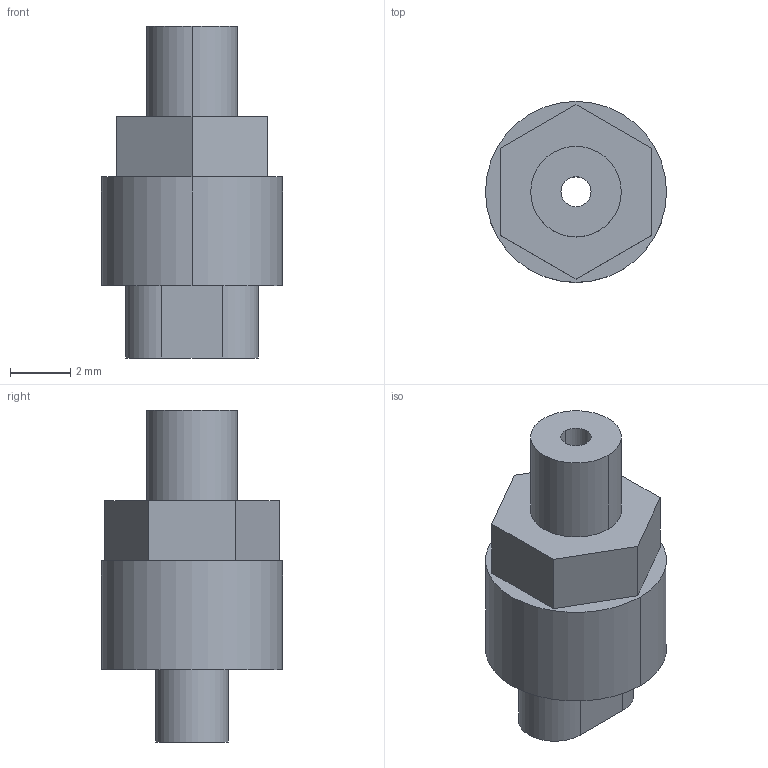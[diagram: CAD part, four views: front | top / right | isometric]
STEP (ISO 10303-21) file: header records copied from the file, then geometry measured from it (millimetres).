
FILE_DESCRIPTION(('STEP AP214'),'1');
FILE_NAME('10_01_01_00564.stp','2021-01-28T16:52:22',('TraceParts'),('TraceParts S.A.'),'Spatial InterOp 3D',' ',' ');
FILE_SCHEMA(('AUTOMOTIVE_DESIGN { 1 0 10303 214 1 1 1 1 }'));
Length unit declared in the file: millimetre
Products named in the file (1): 10_01_01_00564
Bounding box: 6 x 6 x 11 mm (x, y, z)
Volume: 175.1 mm3; surface area: 265.1 mm2
Topology: 1 solids, 2 shells, 34 faces, 76 edges, 50 vertices
Faces by surface type: plane 18, cylinder 14, cone 2
Entity records: 1257 total; most frequent: DIRECTION 176, CARTESIAN_POINT 161, ORIENTED_EDGE 152, EDGE_CURVE 76, AXIS2_PLACEMENT_3D 65, VERTEX_POINT 50, LINE 46, VECTOR 46
